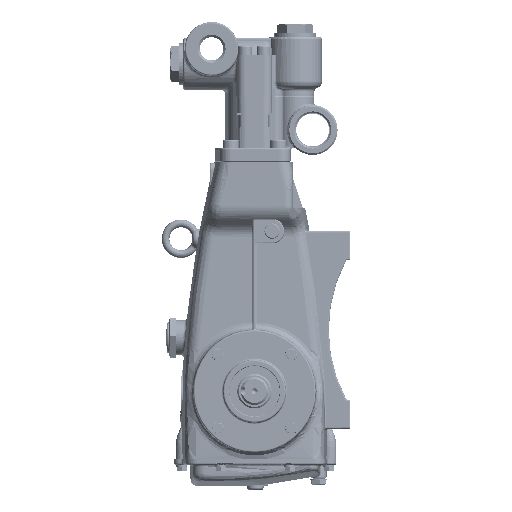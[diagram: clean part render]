
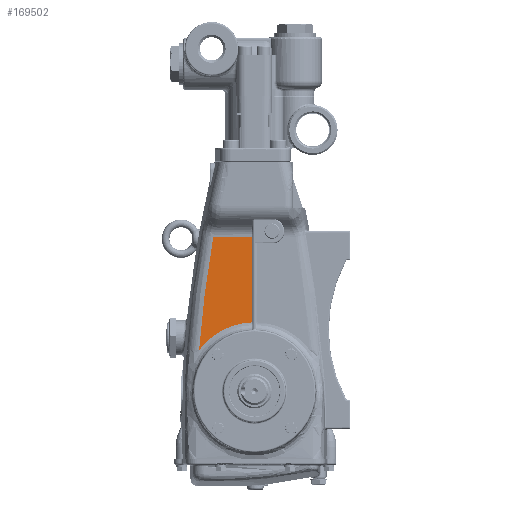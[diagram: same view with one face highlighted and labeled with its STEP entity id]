
A CAD part, left-side view. The second image highlights one B-rep face of the part: STEP entity #169502.
In plain terms, the highlighted planar face has unit normal (-1, 0, 0.01).
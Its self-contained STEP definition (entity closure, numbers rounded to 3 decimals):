
#949 = DIRECTION ( 'NONE',  ( -1., 0., 0.01 ) ) ;
#10511 = ORIENTED_EDGE ( 'NONE', *, *, #146137, .T. ) ;
#14437 = VERTEX_POINT ( 'NONE', #141792 ) ;
#27419 = CARTESIAN_POINT ( 'NONE',  ( -97.194, -101., 16.625 ) ) ;
#31916 = CARTESIAN_POINT ( 'NONE',  ( -96.472, 3.5, 89.833 ) ) ;
#51625 = CARTESIAN_POINT ( 'NONE',  ( -95.372, 3.5, 201.441 ) ) ;
#53877 = PLANE ( 'NONE',  #178998 ) ;
#58452 = CARTESIAN_POINT ( 'NONE',  ( -96.483, 31.305, 88.751 ) ) ;
#63379 = CARTESIAN_POINT ( 'NONE',  ( -96.832, 72.419, 53.339 ) ) ;
#69453 = EDGE_LOOP ( 'NONE', ( #114260, #10511, #96599, #191034 ) ) ;
#76506 = EDGE_CURVE ( 'NONE', #14437, #166222, #163130, .T. ) ;
#84914 = CARTESIAN_POINT ( 'NONE',  ( -96.611, 55.897, 75.729 ) ) ;
#89794 = CARTESIAN_POINT ( 'NONE',  ( -96.587, 70.551, 78.18 ) ) ;
#96599 = ORIENTED_EDGE ( 'NONE', *, *, #146747, .T. ) ;
#108463 = DIRECTION ( 'NONE',  ( 0., 1., 0. ) ) ;
#111336 = CARTESIAN_POINT ( 'NONE',  ( -96.832, 72.419, 53.339 ) ) ;
#114260 = ORIENTED_EDGE ( 'NONE', *, *, #76506, .T. ) ;
#116189 = CARTESIAN_POINT ( 'NONE',  ( -96.099, 65.568, 127.704 ) ) ;
#129211 = B_SPLINE_CURVE_WITH_KNOTS ( 'NONE', 3,
 ( #169223, #142674, #116189, #89794, #63379 ),
 .UNSPECIFIED., .F., .F.,
 ( 4, 1, 4 ),
 ( 0., 0.075, 0.149 ),
 .UNSPECIFIED. ) ;
#134918 = CARTESIAN_POINT ( 'NONE',  ( -95.372, 66.992, 201.441 ) ) ;
#140436 = DIRECTION ( 'NONE',  ( 0.01, 0., 1. ) ) ;
#141792 = CARTESIAN_POINT ( 'NONE',  ( -96.832, 72.419, 53.339 ) ) ;
#142674 = CARTESIAN_POINT ( 'NONE',  ( -95.614, 58.098, 176.915 ) ) ;
#146137 = EDGE_CURVE ( 'NONE', #166222, #248510, #193537, .T. ) ;
#146747 = EDGE_CURVE ( 'NONE', #248510, #251482, #161452, .T. ) ;
#158808 = FACE_OUTER_BOUND ( 'NONE', #69453, .T. ) ;
#161452 = LINE ( 'NONE', #134918, #207335 ) ;
#163130 =( BOUNDED_CURVE ( )  B_SPLINE_CURVE ( 3, ( #111336, #84914, #58452, #31916 ),
 .UNSPECIFIED., .F., .F. ) 
 B_SPLINE_CURVE_WITH_KNOTS ( ( 4, 4 ),
 ( 2.207, 3.103 ),
 .UNSPECIFIED. ) 
 CURVE ( )  GEOMETRIC_REPRESENTATION_ITEM ( )  RATIONAL_B_SPLINE_CURVE ( ( 1., 0.934, 0.934, 1. ) ) 
 REPRESENTATION_ITEM ( '' )  );
#166222 = VERTEX_POINT ( 'NONE', #204743 ) ;
#166934 = CARTESIAN_POINT ( 'NONE',  ( -95.372, 3.5, 201.441 ) ) ;
#169223 = CARTESIAN_POINT ( 'NONE',  ( -95.372, 53.739, 201.441 ) ) ;
#169502 = ADVANCED_FACE ( 'NONE', ( #158808 ), #53877, .T. ) ;
#178998 = AXIS2_PLACEMENT_3D ( 'NONE', #27419, #949, #233113 ) ;
#185195 = EDGE_CURVE ( 'NONE', #251482, #14437, #129211, .T. ) ;
#191034 = ORIENTED_EDGE ( 'NONE', *, *, #185195, .T. ) ;
#193537 = LINE ( 'NONE', #166934, #255607 ) ;
#204743 = CARTESIAN_POINT ( 'NONE',  ( -96.472, 3.5, 89.833 ) ) ;
#207335 = VECTOR ( 'NONE', #108463, 1000. ) ;
#233113 = DIRECTION ( 'NONE',  ( 0.01, 0., 1. ) ) ;
#243418 = CARTESIAN_POINT ( 'NONE',  ( -95.372, 53.739, 201.441 ) ) ;
#248510 = VERTEX_POINT ( 'NONE', #51625 ) ;
#251482 = VERTEX_POINT ( 'NONE', #243418 ) ;
#255607 = VECTOR ( 'NONE', #140436, 1000. ) ;
